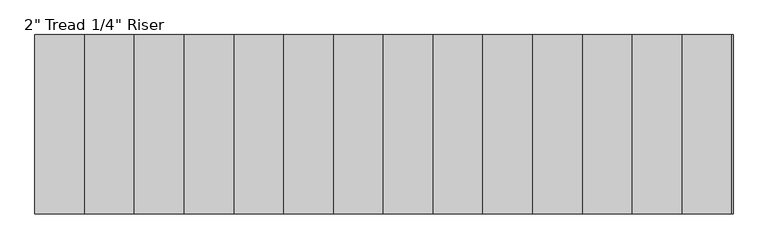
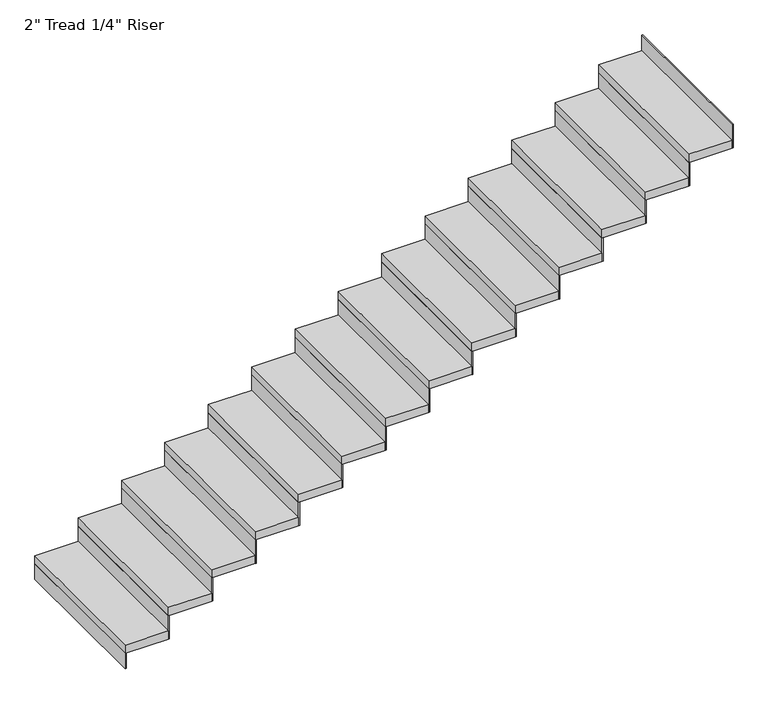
"""IFC4 building model written with IfcOpenShell, lengths in millimetres: stair flight geometry."""

from ifc_helpers import new_model, si_unit, frame, origin, origin_with_axes, place, context, project, spatial, polyline, outline, extrude, source, transform, mapped, element, save


def stair_flight_4906deab(model_context):
    return source(origin(), model_context, "Body", "SweptSolid", [
        extrude(outline(polyline([(159432.6120703, 15846.0395941), (159426.2620703, 15846.0395941), (159426.2620703, 16760.4395941), (159432.6120703, 16760.4395941), (159432.6120703, 15846.0395941)])), origin_with_axes(), (0.0, 0.0, 1.0), 94.3428571),
        extrude(outline(polyline([(159680.2620703, 16760.4395941), (159680.2620703, 15846.0395941), (159426.2620703, 15846.0395941), (159426.2620703, 16760.4395941), (159680.2620703, 16760.4395941)])), frame((0.0, 0.0, 94.3428571), z_axis=(0.0, 0.0, 1.0), x_axis=(1.0, 0.0, 0.0)), (0.0, 0.0, 1.0), 50.8),
        extrude(outline(polyline([(159686.6120703, 15846.0395941), (159680.2620703, 15846.0395941), (159680.2620703, 16760.4395941), (159686.6120703, 16760.4395941), (159686.6120703, 15846.0395941)])), frame((0.0, 0.0, 94.3428571), z_axis=(0.0, 0.0, 1.0), x_axis=(1.0, 0.0, 0.0)), (0.0, 0.0, 1.0), 145.1428571),
        extrude(outline(polyline([(159934.2620703, 16760.4395941), (159934.2620703, 15846.0395941), (159680.2620703, 15846.0395941), (159680.2620703, 16760.4395941), (159934.2620703, 16760.4395941)])), frame((0.0, 0.0, 239.4857143), z_axis=(0.0, 0.0, 1.0), x_axis=(1.0, 0.0, 0.0)), (0.0, 0.0, 1.0), 50.8),
        extrude(outline(polyline([(159940.6120703, 15846.0395941), (159934.2620703, 15846.0395941), (159934.2620703, 16760.4395941), (159940.6120703, 16760.4395941), (159940.6120703, 15846.0395941)])), frame((0.0, 0.0, 239.4857143), z_axis=(0.0, 0.0, 1.0), x_axis=(1.0, 0.0, 0.0)), (0.0, 0.0, 1.0), 145.1428571),
        extrude(outline(polyline([(160188.2620703, 16760.4395941), (160188.2620703, 15846.0395941), (159934.2620703, 15846.0395941), (159934.2620703, 16760.4395941), (160188.2620703, 16760.4395941)])), frame((0.0, 0.0, 384.6285714), z_axis=(0.0, 0.0, 1.0), x_axis=(1.0, 0.0, 0.0)), (0.0, 0.0, 1.0), 50.8),
        extrude(outline(polyline([(160194.6120703, 15846.0395941), (160188.2620703, 15846.0395941), (160188.2620703, 16760.4395941), (160194.6120703, 16760.4395941), (160194.6120703, 15846.0395941)])), frame((0.0, 0.0, 384.6285714), z_axis=(0.0, 0.0, 1.0), x_axis=(1.0, 0.0, 0.0)), (0.0, 0.0, 1.0), 145.1428571),
        extrude(outline(polyline([(160442.2620703, 16760.4395941), (160442.2620703, 15846.0395941), (160188.2620703, 15846.0395941), (160188.2620703, 16760.4395941), (160442.2620703, 16760.4395941)])), frame((0.0, 0.0, 529.7714286), z_axis=(0.0, 0.0, 1.0), x_axis=(1.0, 0.0, 0.0)), (0.0, 0.0, 1.0), 50.8),
        extrude(outline(polyline([(160448.6120703, 15846.0395941), (160442.2620703, 15846.0395941), (160442.2620703, 16760.4395941), (160448.6120703, 16760.4395941), (160448.6120703, 15846.0395941)])), frame((0.0, 0.0, 529.7714286), z_axis=(0.0, 0.0, 1.0), x_axis=(1.0, 0.0, 0.0)), (0.0, 0.0, 1.0), 145.1428571),
        extrude(outline(polyline([(160696.2620703, 16760.4395941), (160696.2620703, 15846.0395941), (160442.2620703, 15846.0395941), (160442.2620703, 16760.4395941), (160696.2620703, 16760.4395941)])), frame((0.0, 0.0, 674.9142857), z_axis=(0.0, 0.0, 1.0), x_axis=(1.0, 0.0, 0.0)), (0.0, 0.0, 1.0), 50.8),
        extrude(outline(polyline([(160702.6120703, 15846.0395941), (160696.2620703, 15846.0395941), (160696.2620703, 16760.4395941), (160702.6120703, 16760.4395941), (160702.6120703, 15846.0395941)])), frame((0.0, 0.0, 674.9142857), z_axis=(0.0, 0.0, 1.0), x_axis=(1.0, 0.0, 0.0)), (0.0, 0.0, 1.0), 145.1428571),
        extrude(outline(polyline([(160950.2620703, 16760.4395941), (160950.2620703, 15846.0395941), (160696.2620703, 15846.0395941), (160696.2620703, 16760.4395941), (160950.2620703, 16760.4395941)])), frame((0.0, 0.0, 820.0571429), z_axis=(0.0, 0.0, 1.0), x_axis=(1.0, 0.0, 0.0)), (0.0, 0.0, 1.0), 50.8),
        extrude(outline(polyline([(160956.6120703, 15846.0395941), (160950.2620703, 15846.0395941), (160950.2620703, 16760.4395941), (160956.6120703, 16760.4395941), (160956.6120703, 15846.0395941)])), frame((0.0, 0.0, 820.0571429), z_axis=(0.0, 0.0, 1.0), x_axis=(1.0, 0.0, 0.0)), (0.0, 0.0, 1.0), 145.1428571),
        extrude(outline(polyline([(161204.2620703, 16760.4395941), (161204.2620703, 15846.0395941), (160950.2620703, 15846.0395941), (160950.2620703, 16760.4395941), (161204.2620703, 16760.4395941)])), frame((0.0, 0.0, 965.2), z_axis=(0.0, 0.0, 1.0), x_axis=(1.0, 0.0, 0.0)), (0.0, 0.0, 1.0), 50.8),
        extrude(outline(polyline([(161210.6120703, 15846.0395941), (161204.2620703, 15846.0395941), (161204.2620703, 16760.4395941), (161210.6120703, 16760.4395941), (161210.6120703, 15846.0395941)])), frame((0.0, 0.0, 965.2), z_axis=(0.0, 0.0, 1.0), x_axis=(1.0, 0.0, 0.0)), (0.0, 0.0, 1.0), 145.1428571),
        extrude(outline(polyline([(161458.2620703, 16760.4395941), (161458.2620703, 15846.0395941), (161204.2620703, 15846.0395941), (161204.2620703, 16760.4395941), (161458.2620703, 16760.4395941)])), frame((0.0, 0.0, 1110.3428571), z_axis=(0.0, 0.0, 1.0), x_axis=(1.0, 0.0, 0.0)), (0.0, 0.0, 1.0), 50.8),
        extrude(outline(polyline([(161464.6120703, 15846.0395941), (161458.2620703, 15846.0395941), (161458.2620703, 16760.4395941), (161464.6120703, 16760.4395941), (161464.6120703, 15846.0395941)])), frame((0.0, 0.0, 1110.3428571), z_axis=(0.0, 0.0, 1.0), x_axis=(1.0, 0.0, 0.0)), (0.0, 0.0, 1.0), 145.1428571),
        extrude(outline(polyline([(161712.2620703, 16760.4395941), (161712.2620703, 15846.0395941), (161458.2620703, 15846.0395941), (161458.2620703, 16760.4395941), (161712.2620703, 16760.4395941)])), frame((0.0, 0.0, 1255.4857143), z_axis=(0.0, 0.0, 1.0), x_axis=(1.0, 0.0, 0.0)), (0.0, 0.0, 1.0), 50.8),
        extrude(outline(polyline([(161718.6120703, 15846.0395941), (161712.2620703, 15846.0395941), (161712.2620703, 16760.4395941), (161718.6120703, 16760.4395941), (161718.6120703, 15846.0395941)])), frame((0.0, 0.0, 1255.4857143), z_axis=(0.0, 0.0, 1.0), x_axis=(1.0, 0.0, 0.0)), (0.0, 0.0, 1.0), 145.1428571),
        extrude(outline(polyline([(161966.2620703, 16760.4395941), (161966.2620703, 15846.0395941), (161712.2620703, 15846.0395941), (161712.2620703, 16760.4395941), (161966.2620703, 16760.4395941)])), frame((0.0, 0.0, 1400.6285714), z_axis=(0.0, 0.0, 1.0), x_axis=(1.0, 0.0, 0.0)), (0.0, 0.0, 1.0), 50.8),
        extrude(outline(polyline([(161972.6120703, 15846.0395941), (161966.2620703, 15846.0395941), (161966.2620703, 16760.4395941), (161972.6120703, 16760.4395941), (161972.6120703, 15846.0395941)])), frame((0.0, 0.0, 1400.6285714), z_axis=(0.0, 0.0, 1.0), x_axis=(1.0, 0.0, 0.0)), (0.0, 0.0, 1.0), 145.1428571),
        extrude(outline(polyline([(162220.2620703, 16760.4395941), (162220.2620703, 15846.0395941), (161966.2620703, 15846.0395941), (161966.2620703, 16760.4395941), (162220.2620703, 16760.4395941)])), frame((0.0, 0.0, 1545.7714286), z_axis=(0.0, 0.0, 1.0), x_axis=(1.0, 0.0, 0.0)), (0.0, 0.0, 1.0), 50.8),
        extrude(outline(polyline([(162226.6120703, 15846.0395941), (162220.2620703, 15846.0395941), (162220.2620703, 16760.4395941), (162226.6120703, 16760.4395941), (162226.6120703, 15846.0395941)])), frame((0.0, 0.0, 1545.7714286), z_axis=(0.0, 0.0, 1.0), x_axis=(1.0, 0.0, 0.0)), (0.0, 0.0, 1.0), 145.1428571),
        extrude(outline(polyline([(162474.2620703, 16760.4395941), (162474.2620703, 15846.0395941), (162220.2620703, 15846.0395941), (162220.2620703, 16760.4395941), (162474.2620703, 16760.4395941)])), frame((0.0, 0.0, 1690.9142857), z_axis=(0.0, 0.0, 1.0), x_axis=(1.0, 0.0, 0.0)), (0.0, 0.0, 1.0), 50.8),
        extrude(outline(polyline([(162480.6120703, 15846.0395941), (162474.2620703, 15846.0395941), (162474.2620703, 16760.4395941), (162480.6120703, 16760.4395941), (162480.6120703, 15846.0395941)])), frame((0.0, 0.0, 1690.9142857), z_axis=(0.0, 0.0, 1.0), x_axis=(1.0, 0.0, 0.0)), (0.0, 0.0, 1.0), 145.1428571),
        extrude(outline(polyline([(162728.2620703, 16760.4395941), (162728.2620703, 15846.0395941), (162474.2620703, 15846.0395941), (162474.2620703, 16760.4395941), (162728.2620703, 16760.4395941)])), frame((0.0, 0.0, 1836.0571429), z_axis=(0.0, 0.0, 1.0), x_axis=(1.0, 0.0, 0.0)), (0.0, 0.0, 1.0), 50.8),
        extrude(outline(polyline([(162734.6120703, 15846.0395941), (162728.2620703, 15846.0395941), (162728.2620703, 16760.4395941), (162734.6120703, 16760.4395941), (162734.6120703, 15846.0395941)])), frame((0.0, 0.0, 1836.0571429), z_axis=(0.0, 0.0, 1.0), x_axis=(1.0, 0.0, 0.0)), (0.0, 0.0, 1.0), 145.1428571),
        extrude(outline(polyline([(162988.6120703, 15846.0395941), (162982.2620703, 15846.0395941), (162982.2620703, 16760.4395941), (162988.6120703, 16760.4395941), (162988.6120703, 15846.0395941)])), frame((0.0, 0.0, 1981.2), z_axis=(0.0, 0.0, 1.0), x_axis=(1.0, 0.0, 0.0)), (0.0, 0.0, 1.0), 145.1428571),
        extrude(outline(polyline([(162982.2620703, 16760.4395941), (162982.2620703, 15846.0395941), (162728.2620703, 15846.0395941), (162728.2620703, 16760.4395941), (162982.2620703, 16760.4395941)])), frame((0.0, 0.0, 1981.2), z_axis=(0.0, 0.0, 1.0), x_axis=(1.0, 0.0, 0.0)), (0.0, 0.0, 1.0), 50.8),
    ])


if __name__ == "__main__":
    model = new_model("IFC4")
    model_context = context("Model", 3, world=origin())
    ifc_project = project(units=[si_unit("LENGTHUNIT", "METRE", prefix="MILLI")], contexts=[model_context])
    site = spatial("IfcSite", under=ifc_project)
    building = spatial("IfcBuilding", under=site)
    placement = place(None, origin())
    stair_flight_shape = stair_flight_4906deab(model_context)
    element("IfcStairFlight", 1, ObjectType="2\" Tread 1/4\" Riser", at=placement, inside=building, context=model_context, shape_type="MappedRepresentation", body=[
        mapped(stair_flight_shape, transform((0.0, 0.0, 0.0), x_axis=(1.0, 0.0, 0.0), y_axis=(0.0, 1.0, 0.0), z_axis=(0.0, 0.0, 1.0))),
    ])
    save(model, "model.ifc")
